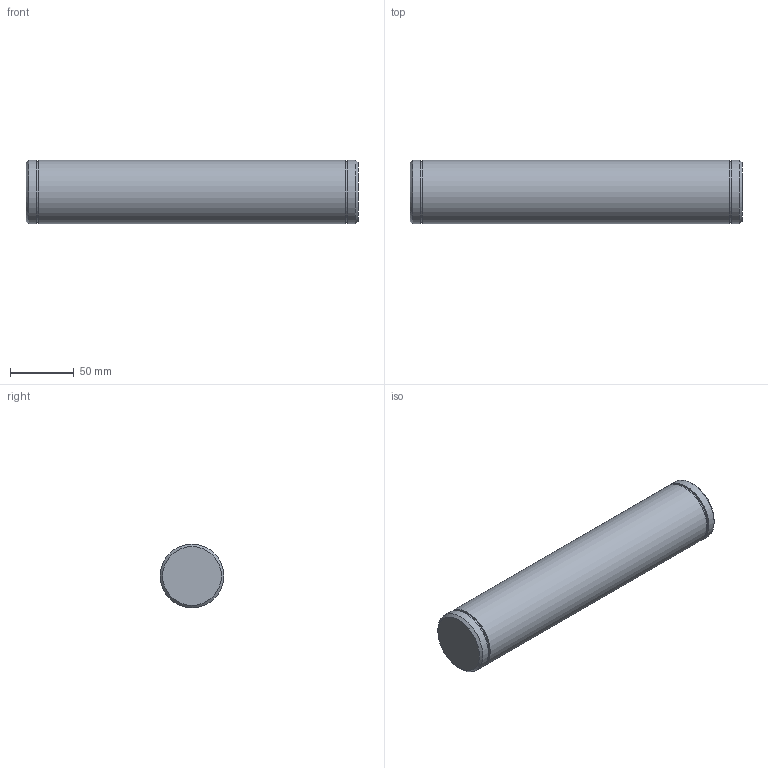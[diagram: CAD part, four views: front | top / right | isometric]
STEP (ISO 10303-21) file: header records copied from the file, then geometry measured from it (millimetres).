
FILE_DESCRIPTION(/* description */ (''),/* implementation_level */ '2;1');
FILE_NAME(/* name */ 'C:\Users\jbart\OneDrive\Plocha\Nová složka\3D modely - stp\Hřídel V.stp',/* time_stamp */ '2025-05-15T16:49:15+02:00',/* author */ ('jbart'),/* organization */ (''),/* preprocessor_version */ 'ST-DEVELOPER v18.1',/* originating_system */ 'Autodesk Inventor 2022',/* authorisation */ '');
FILE_SCHEMA (('AUTOMOTIVE_DESIGN { 1 0 10303 214 3 1 1 }'));
Length unit declared in the file: millimetre
Products named in the file (1): Hřídel V
Bounding box: 260 x 50 x 50 mm (x, y, z)
Volume: 508914.5 mm3; surface area: 45262.9 mm2
Topology: 1 solids, 1 shells, 13 faces, 21 edges, 14 vertices
Faces by surface type: plane 6, cylinder 5, cone 2
Full cylindrical faces by diameter (mm): 47 x2, 50 x3
Entity records: 348 total; most frequent: DIRECTION 63, CARTESIAN_POINT 49, ORIENTED_EDGE 42, AXIS2_PLACEMENT_3D 28, EDGE_CURVE 21, EDGE_LOOP 17, CIRCLE 14, VERTEX_POINT 14
